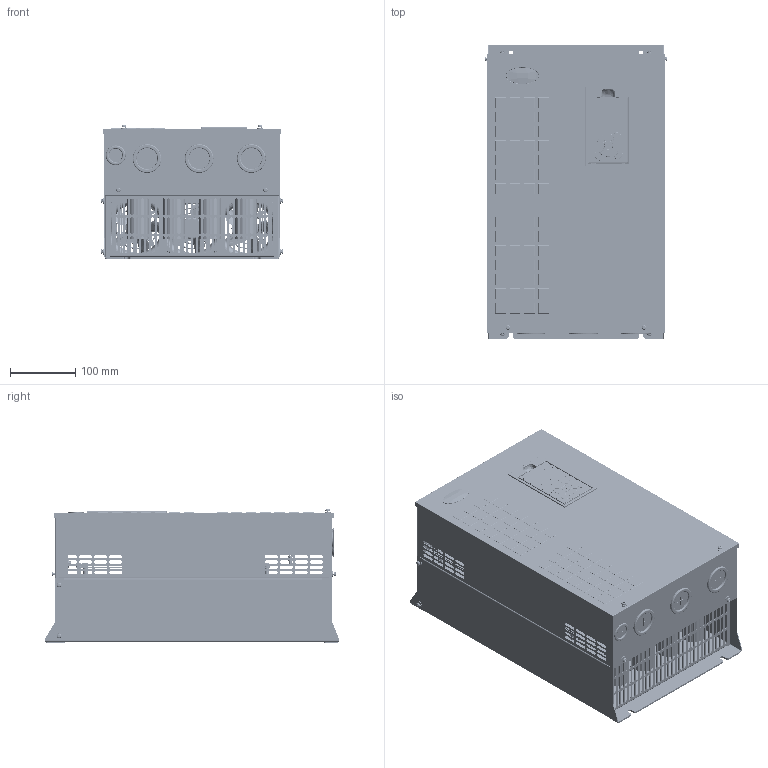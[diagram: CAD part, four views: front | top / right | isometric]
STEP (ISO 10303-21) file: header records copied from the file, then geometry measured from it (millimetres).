
FILE_DESCRIPTION((''),'2;1');
FILE_NAME('305_ASM','2025-09-25T14:35:27',('L90915'),(''),'CREO PARAMETRIC BY PTC INC, 2018190','CREO PARAMETRIC BY PTC INC, 2018190','');
FILE_SCHEMA(('CONFIG_CONTROL_DESIGN'));
Products named in the file (75): 305MS09; 305MS10; 305MS11; 305MS12; 305MS13; 305MS14; 305MS15; MAODING; 305MA02_ASM; 305MS03; 305MS04; 305MS05; 305MS16; 305MA03_ASM; 305MS06; 305MS01; 305MS07; 305MS01-B; 305MA04_ASM; 305MS02; 305MS08; 305MS02-B; 305MA05_ASM; 305MA01_ASM; 305MI04; 305MI02; 305MA11_ASM; 305MC01; 305MC02; 305MC03; 305MC04; 305MC05; 305MC06; 305MC07; 305MC08; 305MA09_ASM; 302MP09; 305MH01; 305MA12_ASM; 8025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
Assembly tree (168 placements, depth 4):
  305_ASM
    305MA01_ASM
      305MA02_ASM
        305MS09
        305MS10
        305MS11
        305MS12
        305MS13
        305MS14
        305MS15
        MAODING  x8
      305MA03_ASM
        305MS03
        305MS04
        305MS05
        MAODING  x6
        305MS16
      305MS06
      305MA04_ASM
        305MS01
        305MS07  x2
        305MS16
        305MS01-B
      305MA05_ASM
        305MS02
        305MS08
        305MS02-B
    305MA12_ASM
      305MA11_ASM
        305MI04
        305MI02
      305MA09_ASM
        305MC01
        305MC02
        305MC03
        305MC04
        305MC05
        305MC06
        305MC07
        305MC08
      302MP09
      305MH01
    305MA10_ASM
      8025  x3
      BSM50GP120
      DFA100BA160
      SHUINI-DIANZU
    302MA01_ASM
      302MP01
      302MP02
      302ME01
      302MP03
    305MA08_ASM
      302PU01
      305PC01
      LED_RED
      305MA13_ASM
        305PM01
        305MC09  x2
        305MC10
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Bounding box: 280.56 x 450 x 205.28 mm (x, y, z)
Volume: 4136587.8 mm3; surface area: 4461043.8 mm2
Topology: 210 solids, 210 shells, 12773 faces, 31484 edges, 19599 vertices
Faces by surface type: plane 7256, cylinder 4231, torus 545, bspline 450, cone 245, sphere 36, extrusion 10
Entity records: 300152 total; most frequent: CARTESIAN_POINT 78060, ORIENTED_EDGE 46144, DIRECTION 44295, EDGE_CURVE 23072, VECTOR 16369, LINE 16359, VERTEX_POINT 14385, AXIS2_PLACEMENT_3D 13963
